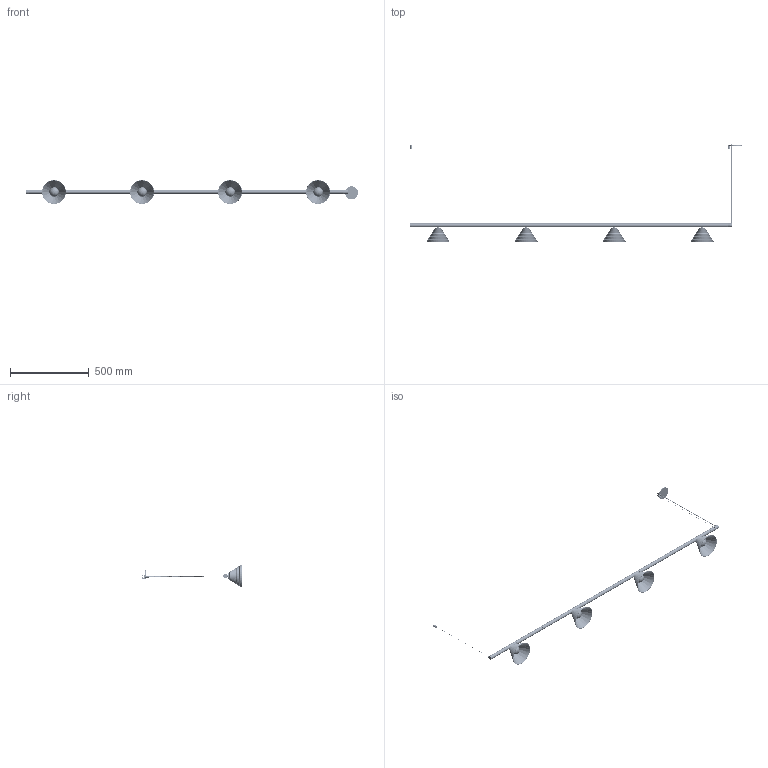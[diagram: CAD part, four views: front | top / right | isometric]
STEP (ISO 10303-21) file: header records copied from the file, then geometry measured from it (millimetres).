
FILE_DESCRIPTION (( 'STEP AP214' ), '1' );
FILE_NAME ('OVAL CONE 20 rec.STEP', '2024-03-15T13:17:19', ( '' ), ( '' ), 'SwSTEP 2.0', 'SolidWorks 2024', '' );
FILE_SCHEMA (( 'AUTOMOTIVE_DESIGN' ));
Length unit declared in the file: millimetre
Products named in the file (39): Taco Micro_Ø10 M10*5; OVAL CONE 20 rec; Taco cuerpo Micro; 04-23DM05-CAMPANA CONE(V1.1)_1; Tapa Alimentación Perfil_SCPRE; Rosca Bola_chapa galbanizada(inglass); Difusor Negro Oval_0.1m; CJ01-ENS_Adaptador 24V_Proyector; CJ02-BALO 60_Surface Ø60; 04-23DM03-Tope_Adaptador_1.3; Regulador Cable Ø0.6 (Bereta LT1007.0601); Tapa Floron Emp. MICRO_Tapa empotarable; Difusor Negro Oval_0.44m; Ensamble Conector Jack Unión_Alimentación Colgante SCPRE; DISIPADOR ALUMINIO BALO Bola Ø60_para bola Ø60; Cable acero_0.5m; 04-23DM01-Adaptador_Caja_DM01.3; Ensamble Tensor Micro_Con Cable; Driver Entity EN1689; Tapon Tapa_2; Perfil Micro V4_2m; CUI_DEVICES_PJ-005B_Ø2.5; BOLA CRISTAL OPAL MATE Ø60 CON ROSCA_60; Prisionero STEAB M4x4_8; Bola_Ø60xT3; Cable_VISUAL Alimentación Micro; Tija Tiny_Inyección ; Tapa Micro V5_V5.1; 04-23DM02-Adaptador_Tapa(V1.2)_24V; Tapa Unión-Final V5_V5.1 Colgante Union ; Ensamble Tapa + Tope_Con Conector; Conector Molex Hembra 43020; Floron U Muelle MICRO; Ensamblaje FLORON EMP. MICRO; Jack_Scpre; Tuerca Hembra Conector Jack; Tuerca M8_Predeterminada; eje cable colgante_M8 MICRO; CJ03-ENS-CAMPANA CONE(V1.1)
Assembly tree (48 placements, depth 5):
  OVAL CONE 20 rec
    Perfil Micro V4_2m
    CJ03-ENS-CAMPANA CONE(V1.1)  x4
      04-23DM05-CAMPANA CONE(V1.1)_1
      CJ02-BALO 60_Surface Ø60
        DISIPADOR ALUMINIO BALO Bola Ø60_para bola Ø60
        BOLA CRISTAL OPAL MATE Ø60 CON ROSCA_60
          Bola_Ø60xT3
          Rosca Bola_chapa galbanizada(inglass)
      CJ01-ENS_Adaptador 24V_Proyector
        04-23DM01-Adaptador_Caja_DM01.3
        04-23DM02-Adaptador_Tapa(V1.2)_24V
        Conector Molex Hembra 43020
        Driver Entity EN1689
        04-23DM03-Tope_Adaptador_1.3  x2
        Tija Tiny_Inyección 
    Difusor Negro Oval_0.1m  x2
    Difusor Negro Oval_0.44m  x3
    Ensamble Tapa + Tope_Con Conector  x2
      Tapa Micro V5_V5.1
      CUI_DEVICES_PJ-005B_Ø2.5
      Tuerca Hembra Conector Jack
    Ensamble Tensor Micro_Con Cable  x2
      Taco Micro_Ø10 M10*5
      Taco cuerpo Micro
      Regulador Cable Ø0.6 (Bereta LT1007.0601)
      Cable acero_0.5m
    Tapa Unión-Final V5_V5.1 Colgante Union   x2
    Ensamble Conector Jack Unión_Alimentación Colgante SCPRE
      Cable_VISUAL Alimentación Micro
      Jack_Scpre
      Tapa Alimentación Perfil_SCPRE
      Prisionero STEAB M4x4_8
    Ensamblaje FLORON EMP. MICRO
      Tapa Floron Emp. MICRO_Tapa empotarable
      Floron U Muelle MICRO
      eje cable colgante_M8 MICRO
      Tuerca M8_Predeterminada
    Tapon Tapa_2
Bounding box: 2111.94 x 642.07 x 153.01 mm (x, y, z)
Volume: 821297.5 mm3; surface area: 917407.5 mm2
Topology: 76 solids, 78 shells, 7517 faces, 18491 edges, 11277 vertices
Faces by surface type: plane 2305, cylinder 2212, cone 1851, bspline 652, torus 373, sphere 124
Entity records: 114785 total; most frequent: CARTESIAN_POINT 59322, ORIENTED_EDGE 11796, DIRECTION 10989, EDGE_CURVE 5898, AXIS2_PLACEMENT_3D 4034, VERTEX_POINT 3676, LINE 2921, VECTOR 2921
